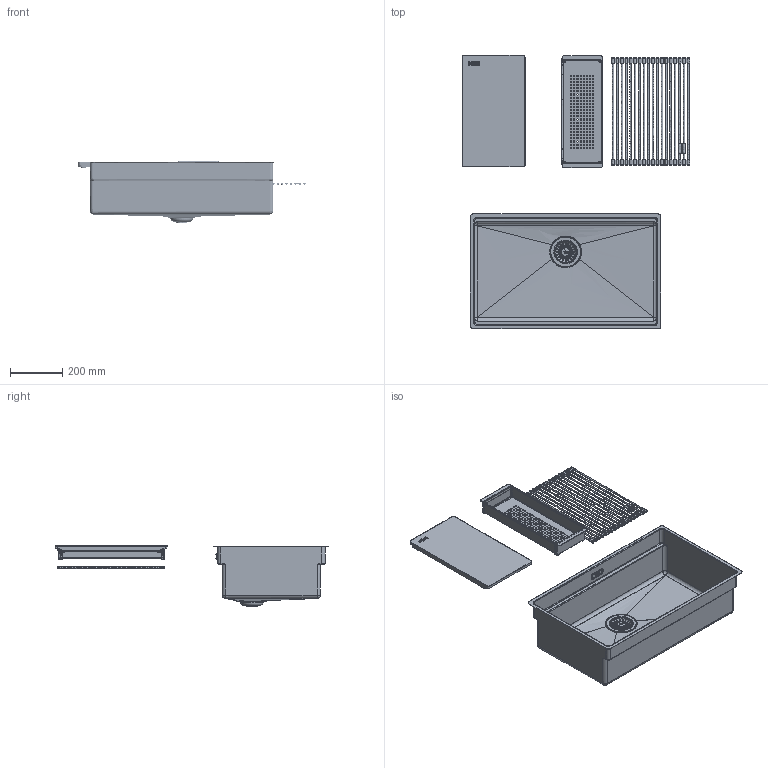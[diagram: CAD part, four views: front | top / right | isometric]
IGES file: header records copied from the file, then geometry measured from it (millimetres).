
Global section: file name: F:\_CONVERSIONE_CAD_2024_2025\PACCHETTI_2026\NUOVI_PACCHETTI_LUGLIO\PRIORITY_1\3D001_Sinks_Box-Pro_BXX-PRO-210-110-70\3D001_Sinks_Box-Pro_BXX-PRO-210-110-70.igs; native system: Rhinoceros ( May  6 2026 ); preprocessor: Trout Lake IGES 012 May  6 2026; date: 260702.091207; units: millimetre
Bounding box: 870.31 x 1048.1 x 234.72 mm (x, y, z)
Surface area: 2305561 mm2 (no closed solid volume)
Topology: 0 solids, 0 shells, 5431 faces, 31872 edges, 31614 vertices
Faces by surface type: bspline 5431
